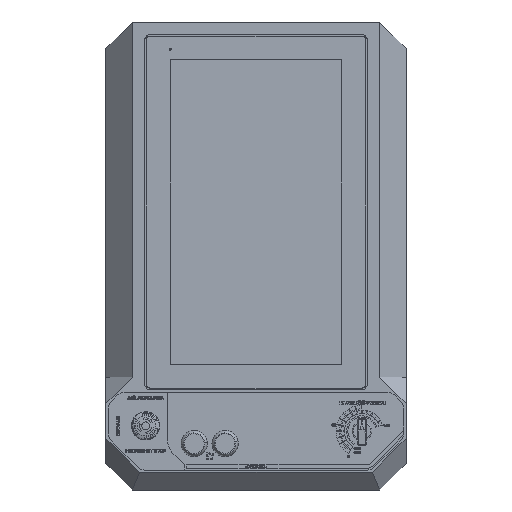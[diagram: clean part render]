
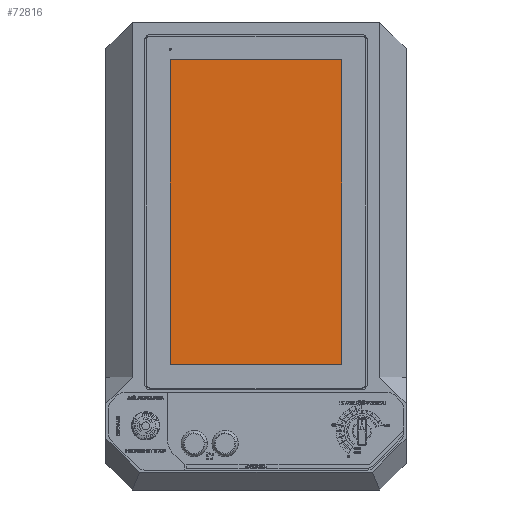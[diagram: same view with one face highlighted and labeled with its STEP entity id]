
A CAD part, top view. The second image highlights one B-rep face of the part: STEP entity #72816.
In plain terms, the highlighted planar face has unit normal (0, 0, 1).
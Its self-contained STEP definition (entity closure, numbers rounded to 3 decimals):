
#7215 = DIRECTION ( 'NONE',  ( 0., 0., 1. ) ) ;
#8742 = VERTEX_POINT ( 'NONE', #45431 ) ;
#11416 = VECTOR ( 'NONE', #82502, 1000. ) ;
#12164 = CARTESIAN_POINT ( 'NONE',  ( -172.28, 96.995, 5.5 ) ) ;
#15416 = ORIENTED_EDGE ( 'NONE', *, *, #83440, .T. ) ;
#17518 = EDGE_LOOP ( 'NONE', ( #45339, #15416, #54200, #44809 ) ) ;
#19158 = EDGE_CURVE ( 'NONE', #83644, #8742, #59379, .T. ) ;
#19766 = EDGE_CURVE ( 'NONE', #79601, #83644, #55285, .T. ) ;
#19954 = EDGE_CURVE ( 'NONE', #49031, #79601, #85957, .T. ) ;
#26856 = CARTESIAN_POINT ( 'NONE',  ( -172.28, 96.995, 5.5 ) ) ;
#34034 = DIRECTION ( 'NONE',  ( 1., 0., 0. ) ) ;
#37921 = CARTESIAN_POINT ( 'NONE',  ( 172.28, 96.995, 5.5 ) ) ;
#43718 = VECTOR ( 'NONE', #65547, 1000. ) ;
#44809 = ORIENTED_EDGE ( 'NONE', *, *, #19766, .T. ) ;
#45339 = ORIENTED_EDGE ( 'NONE', *, *, #19158, .T. ) ;
#45431 = CARTESIAN_POINT ( 'NONE',  ( 172.28, 96.995, 5.5 ) ) ;
#49031 = VERTEX_POINT ( 'NONE', #63442 ) ;
#50565 = VECTOR ( 'NONE', #60463, 1000. ) ;
#53355 = FACE_OUTER_BOUND ( 'NONE', #17518, .T. ) ;
#53640 = DIRECTION ( 'NONE',  ( -1., 0., 0. ) ) ;
#54200 = ORIENTED_EDGE ( 'NONE', *, *, #19954, .T. ) ;
#54500 = LINE ( 'NONE', #26856, #63663 ) ;
#55285 = LINE ( 'NONE', #61877, #11416 ) ;
#59379 = LINE ( 'NONE', #37921, #43718 ) ;
#60463 = DIRECTION ( 'NONE',  ( 0., -1., 0. ) ) ;
#60788 = CARTESIAN_POINT ( 'NONE',  ( 0., 0., 5.5 ) ) ;
#61664 = PLANE ( 'NONE',  #85486 ) ;
#61877 = CARTESIAN_POINT ( 'NONE',  ( -172.28, -96.995, 5.5 ) ) ;
#63442 = CARTESIAN_POINT ( 'NONE',  ( -172.28, 96.995, 5.5 ) ) ;
#63663 = VECTOR ( 'NONE', #53640, 1000. ) ;
#65547 = DIRECTION ( 'NONE',  ( 0., 1., 0. ) ) ;
#72425 = CARTESIAN_POINT ( 'NONE',  ( 172.28, -96.995, 5.5 ) ) ;
#72816 = ADVANCED_FACE ( 'NONE', ( #53355 ), #61664, .T. ) ;
#74928 = CARTESIAN_POINT ( 'NONE',  ( -172.28, -96.995, 5.5 ) ) ;
#79601 = VERTEX_POINT ( 'NONE', #74928 ) ;
#82502 = DIRECTION ( 'NONE',  ( 1., 0., 0. ) ) ;
#83440 = EDGE_CURVE ( 'NONE', #8742, #49031, #54500, .T. ) ;
#83644 = VERTEX_POINT ( 'NONE', #72425 ) ;
#85486 = AXIS2_PLACEMENT_3D ( 'NONE', #60788, #7215, #34034 ) ;
#85957 = LINE ( 'NONE', #12164, #50565 ) ;
